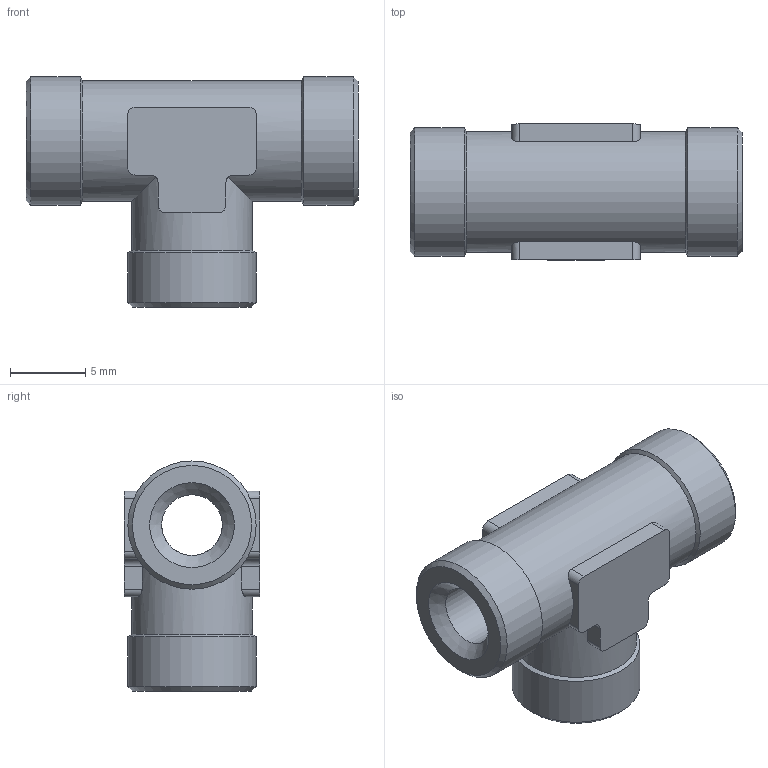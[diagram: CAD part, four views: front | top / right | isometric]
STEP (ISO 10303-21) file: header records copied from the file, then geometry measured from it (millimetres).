
FILE_DESCRIPTION(/* description */ (''),/* implementation_level */ '2;1');
FILE_NAME(/* name */ '40002_111_M5_21.03.17',/* time_stamp */ '2017-03-21T10:26:04+01:00',/* author */ (''),/* organization */ (''),/* preprocessor_version */ 'ST-DEVELOPER v16.5',/* originating_system */ 'HiCAD 2016 2102.1 Build 498',/* authorisation */ '');
FILE_SCHEMA (('AUTOMOTIVE_DESIGN { 1 0 10303 214 1 1 1 1 }'));
Length unit declared in the file: millimetre
Products named in the file (2): Root; 40002
Assembly tree (1 placements, depth 2):
  Root
    40002
Bounding box: 22 x 9 x 15.25 mm (x, y, z)
Volume: 1213.9 mm3; surface area: 1268.6 mm2
Topology: 1 solids, 1 shells, 53 faces, 149 edges, 97 vertices
Faces by surface type: cylinder 23, plane 21, cone 9
Full cylindrical faces by diameter (mm): 4.02 x2, 8 x2, 8.5 x3
Entity records: 5480 total; most frequent: CARTESIAN_POINT 3001, DIRECTION 256, PRESENTATION_STYLE_ASSIGNMENT 245, COLOUR_RGB 245, DRAUGHTING_PRE_DEFINED_CURVE_FONT 244, CURVE_STYLE 244, OVER_RIDING_STYLED_ITEM 244, ORIENTED_EDGE 244
